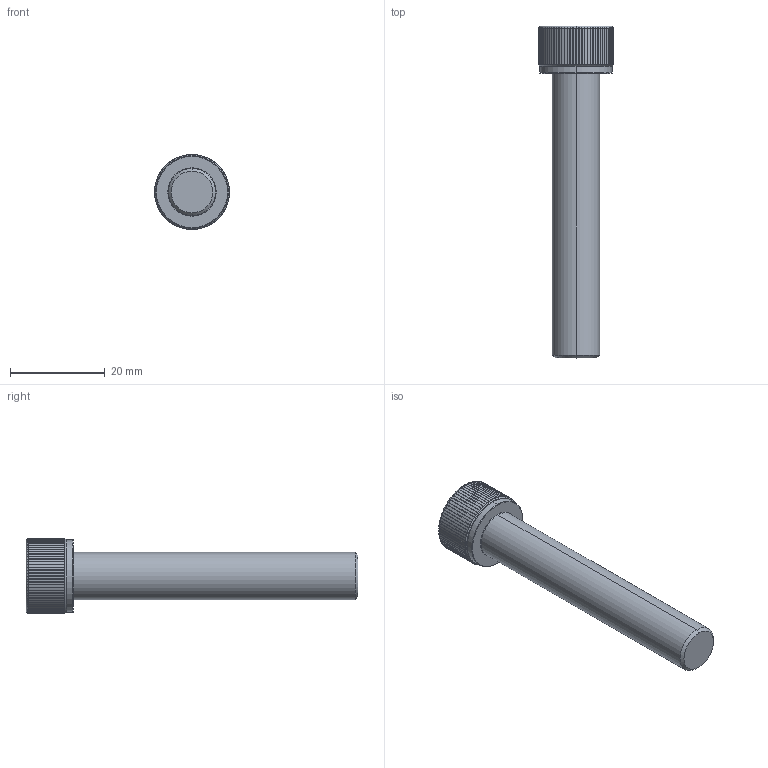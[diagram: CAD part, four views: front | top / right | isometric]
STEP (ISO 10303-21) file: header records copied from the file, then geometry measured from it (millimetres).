
FILE_DESCRIPTION (( 'STEP AP203' ), '1' );
FILE_NAME ('LGDT-304-M10x60.STEP', '2026-08-10T07:27:26', ( '' ), ( '' ), 'SwSTEP 2.0', 'SolidWorks 2020', '' );
FILE_SCHEMA (( 'CONFIG_CONTROL_DESIGN' ));
Length unit declared in the file: millimetre
Products named in the file (1): LGDT-304-M10x60
Bounding box: 15.8 x 70 x 15.8 mm (x, y, z)
Volume: 6307.5 mm3; surface area: 2902 mm2
Topology: 1 solids, 1 shells, 204 faces, 576 edges, 376 vertices
Faces by surface type: cylinder 175, cone 11, plane 10, torus 8
Entity records: 8367 total; most frequent: CARTESIAN_POINT 3208, ORIENTED_EDGE 1152, DIRECTION 988, EDGE_CURVE 576, AXIS2_PLACEMENT_3D 398, VERTEX_POINT 376, EDGE_LOOP 206, FACE_OUTER_BOUND 204
